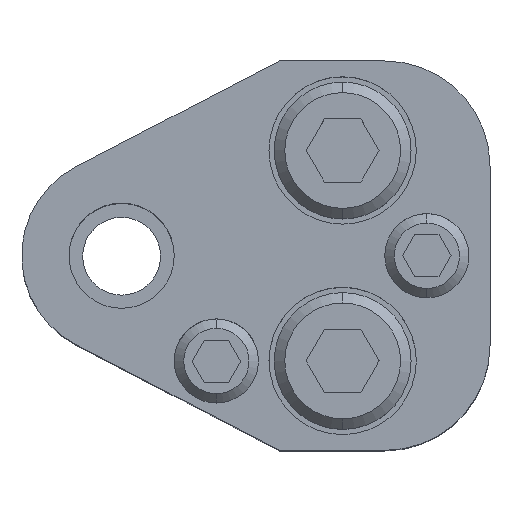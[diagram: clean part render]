
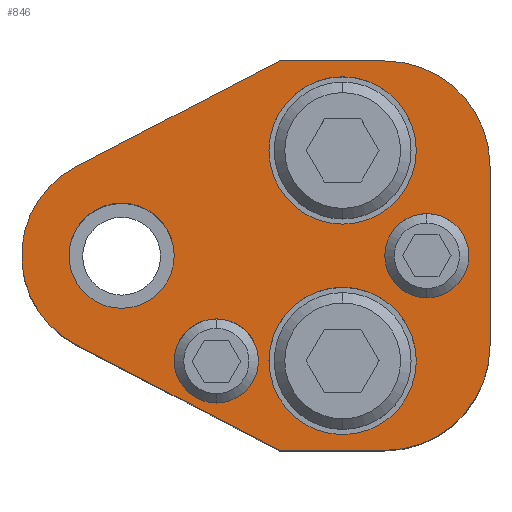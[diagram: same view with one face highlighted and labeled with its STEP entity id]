
A CAD part, top view. The second image highlights one B-rep face of the part: STEP entity #846.
In plain terms, the highlighted planar face has unit normal (0, 0, 1).
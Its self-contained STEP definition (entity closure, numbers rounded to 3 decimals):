
#461=LINE('',#4196,#659);
#466=LINE('',#4211,#664);
#470=LINE('',#4223,#668);
#475=LINE('',#4232,#673);
#480=LINE('',#4246,#678);
#659=VECTOR('',#3371,1.);
#664=VECTOR('',#3384,1.);
#668=VECTOR('',#3396,1.);
#673=VECTOR('',#3403,1.);
#678=VECTOR('',#3416,1.);
#846=ADVANCED_FACE('',(#979,#980,#981,#982,#983,#984),#943,.T.);
#943=PLANE('',#2837);
#979=FACE_BOUND('',#1131,.T.);
#980=FACE_BOUND('',#1132,.T.);
#981=FACE_BOUND('',#1133,.T.);
#982=FACE_BOUND('',#1134,.T.);
#983=FACE_BOUND('',#1135,.T.);
#984=FACE_BOUND('',#1136,.T.);
#1131=EDGE_LOOP('',(#1676,#1677,#1678,#1679,#1680,#1681,#1682,#1683));
#1132=EDGE_LOOP('',(#1684,#1685));
#1133=EDGE_LOOP('',(#1686,#1687));
#1134=EDGE_LOOP('',(#1688,#1689));
#1135=EDGE_LOOP('',(#1690,#1691));
#1136=EDGE_LOOP('',(#1692,#1693));
#1676=ORIENTED_EDGE('',*,*,#2340,.T.);
#1677=ORIENTED_EDGE('',*,*,#2322,.T.);
#1678=ORIENTED_EDGE('',*,*,#2326,.T.);
#1679=ORIENTED_EDGE('',*,*,#2329,.T.);
#1680=ORIENTED_EDGE('',*,*,#2332,.T.);
#1681=ORIENTED_EDGE('',*,*,#2335,.T.);
#1682=ORIENTED_EDGE('',*,*,#2347,.T.);
#1683=ORIENTED_EDGE('',*,*,#2343,.T.);
#1684=ORIENTED_EDGE('',*,*,#2382,.F.);
#1685=ORIENTED_EDGE('',*,*,#2383,.F.);
#1686=ORIENTED_EDGE('',*,*,#2384,.F.);
#1687=ORIENTED_EDGE('',*,*,#2385,.F.);
#1688=ORIENTED_EDGE('',*,*,#2372,.F.);
#1689=ORIENTED_EDGE('',*,*,#2368,.F.);
#1690=ORIENTED_EDGE('',*,*,#2366,.F.);
#1691=ORIENTED_EDGE('',*,*,#2362,.F.);
#1692=ORIENTED_EDGE('',*,*,#2386,.T.);
#1693=ORIENTED_EDGE('',*,*,#2387,.T.);
#2023=VERTEX_POINT('',#4195);
#2024=VERTEX_POINT('',#4197);
#2027=VERTEX_POINT('',#4204);
#2029=VERTEX_POINT('',#4210);
#2031=VERTEX_POINT('',#4216);
#2033=VERTEX_POINT('',#4222);
#2037=VERTEX_POINT('',#4233);
#2039=VERTEX_POINT('',#4239);
#2053=VERTEX_POINT('',#4281);
#2054=VERTEX_POINT('',#4282);
#2057=VERTEX_POINT('',#4293);
#2058=VERTEX_POINT('',#4294);
#2065=VERTEX_POINT('',#4321);
#2066=VERTEX_POINT('',#4322);
#2067=VERTEX_POINT('',#4325);
#2068=VERTEX_POINT('',#4326);
#2069=VERTEX_POINT('',#4329);
#2070=VERTEX_POINT('',#4330);
#2322=EDGE_CURVE('',#2024,#2023,#461,.T.);
#2326=EDGE_CURVE('',#2023,#2027,#2547,.T.);
#2329=EDGE_CURVE('',#2027,#2029,#466,.T.);
#2332=EDGE_CURVE('',#2029,#2031,#2549,.T.);
#2335=EDGE_CURVE('',#2031,#2033,#470,.T.);
#2340=EDGE_CURVE('',#2037,#2024,#475,.T.);
#2343=EDGE_CURVE('',#2039,#2037,#2552,.T.);
#2347=EDGE_CURVE('',#2033,#2039,#480,.T.);
#2362=EDGE_CURVE('',#2053,#2054,#2561,.T.);
#2366=EDGE_CURVE('',#2054,#2053,#2563,.T.);
#2368=EDGE_CURVE('',#2057,#2058,#2565,.T.);
#2372=EDGE_CURVE('',#2058,#2057,#2567,.T.);
#2382=EDGE_CURVE('',#2065,#2066,#2573,.T.);
#2383=EDGE_CURVE('',#2066,#2065,#2574,.T.);
#2384=EDGE_CURVE('',#2067,#2068,#2575,.T.);
#2385=EDGE_CURVE('',#2068,#2067,#2576,.T.);
#2386=EDGE_CURVE('',#2069,#2070,#2577,.T.);
#2387=EDGE_CURVE('',#2070,#2069,#2578,.T.);
#2547=CIRCLE('',#2788,10.);
#2549=CIRCLE('',#2792,10.);
#2552=CIRCLE('',#2798,9.5);
#2561=CIRCLE('',#2811,4.);
#2563=CIRCLE('',#2814,4.);
#2565=CIRCLE('',#2817,4.);
#2567=CIRCLE('',#2820,4.);
#2573=CIRCLE('',#2831,7.);
#2574=CIRCLE('',#2832,7.);
#2575=CIRCLE('',#2833,7.);
#2576=CIRCLE('',#2834,7.);
#2577=CIRCLE('',#2835,5.);
#2578=CIRCLE('',#2836,5.);
#2788=AXIS2_PLACEMENT_3D('',#4205,#3377,#3378);
#2792=AXIS2_PLACEMENT_3D('',#4217,#3389,#3390);
#2798=AXIS2_PLACEMENT_3D('',#4238,#3409,#3410);
#2811=AXIS2_PLACEMENT_3D('',#4280,#3444,#3445);
#2814=AXIS2_PLACEMENT_3D('',#4289,#3452,#3453);
#2817=AXIS2_PLACEMENT_3D('',#4292,#3458,#3459);
#2820=AXIS2_PLACEMENT_3D('',#4301,#3466,#3467);
#2831=AXIS2_PLACEMENT_3D('',#4320,#3492,#3493);
#2832=AXIS2_PLACEMENT_3D('',#4323,#3494,#3495);
#2833=AXIS2_PLACEMENT_3D('',#4324,#3496,#3497);
#2834=AXIS2_PLACEMENT_3D('',#4327,#3498,#3499);
#2835=AXIS2_PLACEMENT_3D('',#4328,#3500,#3501);
#2836=AXIS2_PLACEMENT_3D('',#4331,#3502,#3503);
#2837=AXIS2_PLACEMENT_3D('',#4332,#3504,#3505);
#3371=DIRECTION('',(1.,0.,0.));
#3377=DIRECTION('',(0.,0.,1.));
#3378=DIRECTION('',(-0.707,0.707,0.));
#3384=DIRECTION('',(0.,1.,0.));
#3389=DIRECTION('',(0.,0.,1.));
#3390=DIRECTION('',(-0.707,-0.707,0.));
#3396=DIRECTION('',(-1.,0.,0.));
#3403=DIRECTION('',(0.887,-0.461,0.));
#3409=DIRECTION('',(0.,0.,1.));
#3410=DIRECTION('',(1.,0.,0.));
#3416=DIRECTION('',(-0.887,-0.461,0.));
#3444=DIRECTION('',(0.,0.,1.));
#3445=DIRECTION('',(-1.,0.,0.));
#3452=DIRECTION('',(0.,0.,1.));
#3453=DIRECTION('',(1.,0.,0.));
#3458=DIRECTION('',(0.,0.,1.));
#3459=DIRECTION('',(-1.,0.,0.));
#3466=DIRECTION('',(0.,0.,1.));
#3467=DIRECTION('',(1.,0.,0.));
#3492=DIRECTION('',(0.,0.,1.));
#3493=DIRECTION('',(1.,0.,0.));
#3494=DIRECTION('',(0.,0.,1.));
#3495=DIRECTION('',(-1.,0.,0.));
#3496=DIRECTION('',(0.,0.,1.));
#3497=DIRECTION('',(1.,0.,0.));
#3498=DIRECTION('',(0.,0.,1.));
#3499=DIRECTION('',(-1.,0.,0.));
#3500=DIRECTION('',(0.,0.,-1.));
#3501=DIRECTION('',(-1.,0.,0.));
#3502=DIRECTION('',(0.,0.,-1.));
#3503=DIRECTION('',(1.,0.,0.));
#3504=DIRECTION('',(0.,0.,1.));
#3505=DIRECTION('',(0.887,-0.461,0.));
#4195=CARTESIAN_POINT('',(25.,-18.5,35.));
#4196=CARTESIAN_POINT('',(15.,-18.5,35.));
#4197=CARTESIAN_POINT('',(15.,-18.5,35.));
#4204=CARTESIAN_POINT('',(35.,-8.5,35.));
#4205=CARTESIAN_POINT('',(25.,-8.5,35.));
#4210=CARTESIAN_POINT('',(35.,8.5,35.));
#4211=CARTESIAN_POINT('',(35.,8.5,35.));
#4216=CARTESIAN_POINT('',(25.,18.5,35.));
#4217=CARTESIAN_POINT('',(25.,8.5,35.));
#4222=CARTESIAN_POINT('',(15.,18.5,35.));
#4223=CARTESIAN_POINT('',(15.,18.5,35.));
#4232=CARTESIAN_POINT('',(15.,-18.5,35.));
#4233=CARTESIAN_POINT('',(-4.38,-8.43,35.));
#4238=CARTESIAN_POINT('',(0.,0.,35.));
#4239=CARTESIAN_POINT('',(-4.38,8.43,35.));
#4246=CARTESIAN_POINT('',(15.,18.5,35.));
#4280=CARTESIAN_POINT('',(9.,-10.,35.));
#4281=CARTESIAN_POINT('',(9.,-14.,35.));
#4282=CARTESIAN_POINT('',(9.,-6.,35.));
#4289=CARTESIAN_POINT('',(9.,-10.,35.));
#4292=CARTESIAN_POINT('',(29.,0.,35.));
#4293=CARTESIAN_POINT('',(29.,-4.,35.));
#4294=CARTESIAN_POINT('',(29.,4.,35.));
#4301=CARTESIAN_POINT('',(29.,0.,35.));
#4320=CARTESIAN_POINT('',(21.,10.,35.));
#4321=CARTESIAN_POINT('',(21.,17.,35.));
#4322=CARTESIAN_POINT('',(21.,3.,35.));
#4323=CARTESIAN_POINT('',(21.,10.,35.));
#4324=CARTESIAN_POINT('',(21.,-10.,35.));
#4325=CARTESIAN_POINT('',(21.,-3.,35.));
#4326=CARTESIAN_POINT('',(21.,-17.,35.));
#4327=CARTESIAN_POINT('',(21.,-10.,35.));
#4328=CARTESIAN_POINT('',(0.,0.,35.));
#4329=CARTESIAN_POINT('',(0.,5.,35.));
#4330=CARTESIAN_POINT('',(0.,-5.,35.));
#4331=CARTESIAN_POINT('',(0.,0.,35.));
#4332=CARTESIAN_POINT('',(-4.38,-8.43,35.));
